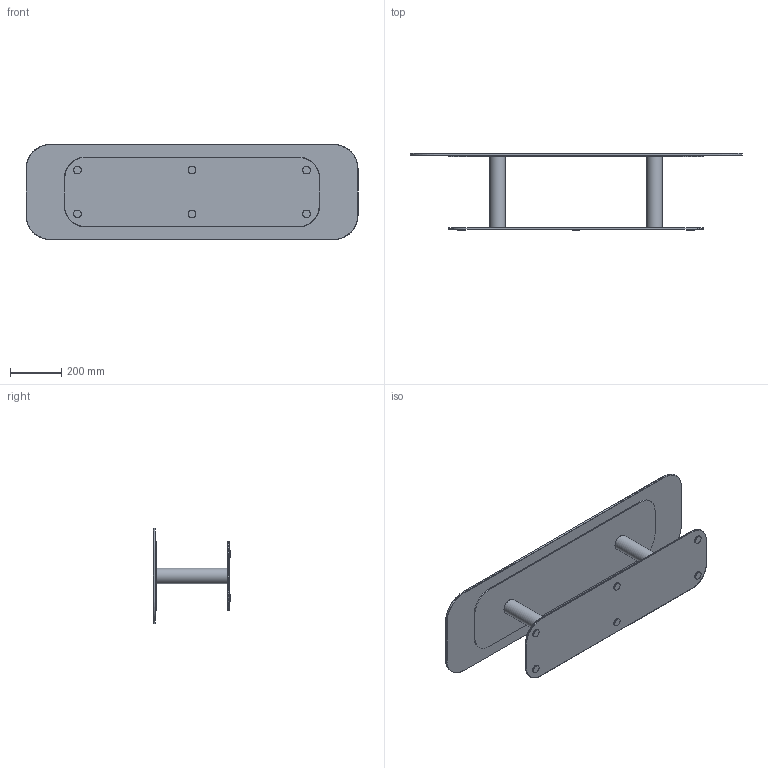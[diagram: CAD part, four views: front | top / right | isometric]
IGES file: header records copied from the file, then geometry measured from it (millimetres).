
Global section: file name: VincentSheppard_Kodo_CT; native system: unknown; preprocessor: unknown; author: unknown; organization: unknown; date: 20190924.084301; units: millimetre
Bounding box: 1290 x 300 x 370 mm (x, y, z)
Volume: 7960658.1 mm3; surface area: 2156899.6 mm2
Topology: 11 solids, 11 shells, 86 faces, 160 edges, 96 vertices
Faces by surface type: bspline 86
